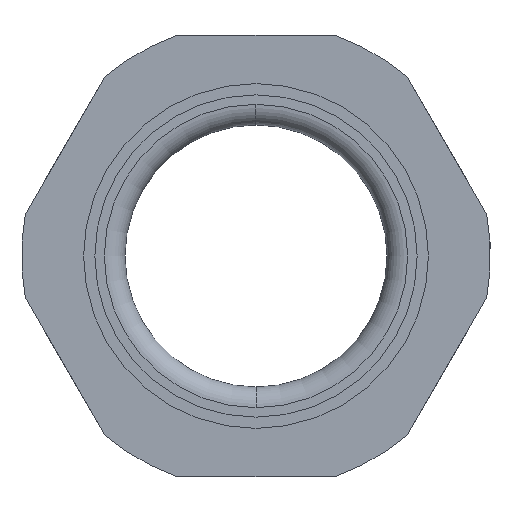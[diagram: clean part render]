
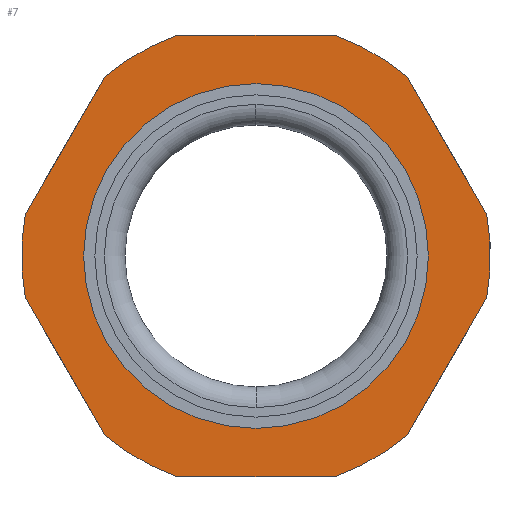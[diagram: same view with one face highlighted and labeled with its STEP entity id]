
A CAD part, front view. The second image highlights one B-rep face of the part: STEP entity #7.
In plain terms, the highlighted planar face has unit normal (0, -1, 0).
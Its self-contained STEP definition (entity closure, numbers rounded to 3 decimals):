
#7 = ADVANCED_FACE ( 'NONE', ( #336, #1300 ), #763, .T. ) ;
#13 = ORIENTED_EDGE ( 'NONE', *, *, #58, .F. ) ;
#30 = DIRECTION ( 'NONE',  ( 0., 1., 0. ) ) ;
#40 = CARTESIAN_POINT ( 'NONE',  ( -10.984, 14., 12.975 ) ) ;
#42 = DIRECTION ( 'NONE',  ( 0., 1., 0. ) ) ;
#44 = DIRECTION ( 'NONE',  ( 0., 0., 1. ) ) ;
#53 = VERTEX_POINT ( 'NONE', #440 ) ;
#58 = EDGE_CURVE ( 'NONE', #1225, #1099, #949, .T. ) ;
#62 = CARTESIAN_POINT ( 'NONE',  ( -10.984, 14., -12.975 ) ) ;
#70 = ORIENTED_EDGE ( 'NONE', *, *, #1513, .T. ) ;
#73 = VECTOR ( 'NONE', #378, 1000. ) ;
#110 = EDGE_LOOP ( 'NONE', ( #418, #358 ) ) ;
#124 = EDGE_CURVE ( 'NONE', #481, #1286, #267, .T. ) ;
#125 = CARTESIAN_POINT ( 'NONE',  ( -5.745, 14., -16. ) ) ;
#132 = DIRECTION ( 'NONE',  ( 0., 0., 1. ) ) ;
#141 = CARTESIAN_POINT ( 'NONE',  ( 0., 14., 0. ) ) ;
#156 = DIRECTION ( 'NONE',  ( 0., 1., 0. ) ) ;
#165 = CIRCLE ( 'NONE', #919, 17. ) ;
#178 = DIRECTION ( 'NONE',  ( 0., 0., 1. ) ) ;
#192 = VERTEX_POINT ( 'NONE', #125 ) ;
#193 = CARTESIAN_POINT ( 'NONE',  ( 0., 14., 0. ) ) ;
#194 = AXIS2_PLACEMENT_3D ( 'NONE', #141, #42, #508 ) ;
#195 = DIRECTION ( 'NONE',  ( 0., 0., 1. ) ) ;
#201 = ORIENTED_EDGE ( 'NONE', *, *, #1332, .F. ) ;
#205 = CIRCLE ( 'NONE', #680, 17. ) ;
#232 = VECTOR ( 'NONE', #1469, 1000. ) ;
#252 = CARTESIAN_POINT ( 'NONE',  ( 10.984, 14., 12.975 ) ) ;
#258 = DIRECTION ( 'NONE',  ( 0., 1., 0. ) ) ;
#267 = LINE ( 'NONE', #752, #232 ) ;
#288 = CARTESIAN_POINT ( 'NONE',  ( 0., 14., 0. ) ) ;
#290 = CARTESIAN_POINT ( 'NONE',  ( 0., 14., 0. ) ) ;
#306 = CARTESIAN_POINT ( 'NONE',  ( 5.745, 14., -16. ) ) ;
#307 = CARTESIAN_POINT ( 'NONE',  ( 0., 14., 0. ) ) ;
#325 = AXIS2_PLACEMENT_3D ( 'NONE', #290, #1251, #1333 ) ;
#336 = FACE_BOUND ( 'NONE', #110, .T. ) ;
#344 = LINE ( 'NONE', #762, #73 ) ;
#358 = ORIENTED_EDGE ( 'NONE', *, *, #819, .T. ) ;
#362 = CARTESIAN_POINT ( 'NONE',  ( -16.729, 14., 3.025 ) ) ;
#366 = CARTESIAN_POINT ( 'NONE',  ( 5.745, 14., 16. ) ) ;
#378 = DIRECTION ( 'NONE',  ( -0.5, 0., -0.866 ) ) ;
#417 = DIRECTION ( 'NONE',  ( 1., 0., 0. ) ) ;
#418 = ORIENTED_EDGE ( 'NONE', *, *, #1123, .T. ) ;
#440 = CARTESIAN_POINT ( 'NONE',  ( 16.729, 14., 3.025 ) ) ;
#452 = CIRCLE ( 'NONE', #325, 17. ) ;
#481 = VERTEX_POINT ( 'NONE', #1501 ) ;
#488 = VERTEX_POINT ( 'NONE', #581 ) ;
#497 = AXIS2_PLACEMENT_3D ( 'NONE', #307, #1359, #195 ) ;
#508 = DIRECTION ( 'NONE',  ( 0., 0., 1. ) ) ;
#531 = CARTESIAN_POINT ( 'NONE',  ( -12.5, 14., 0. ) ) ;
#535 = CARTESIAN_POINT ( 'NONE',  ( 10.731, 14., 13.413 ) ) ;
#540 = CARTESIAN_POINT ( 'NONE',  ( 0., 14., 0. ) ) ;
#549 = VERTEX_POINT ( 'NONE', #306 ) ;
#563 = EDGE_CURVE ( 'NONE', #53, #488, #750, .T. ) ;
#573 = DIRECTION ( 'NONE',  ( 0., -1., 0. ) ) ;
#581 = CARTESIAN_POINT ( 'NONE',  ( 16.729, 14., -3.025 ) ) ;
#601 = LINE ( 'NONE', #871, #1188 ) ;
#660 = LINE ( 'NONE', #1527, #908 ) ;
#680 = AXIS2_PLACEMENT_3D ( 'NONE', #1001, #740, #44 ) ;
#706 = VERTEX_POINT ( 'NONE', #1137 ) ;
#729 = EDGE_CURVE ( 'NONE', #53, #1099, #1484, .T. ) ;
#740 = DIRECTION ( 'NONE',  ( 0., 1., 0. ) ) ;
#750 = CIRCLE ( 'NONE', #1103, 17. ) ;
#752 = CARTESIAN_POINT ( 'NONE',  ( -16.981, 14., -2.587 ) ) ;
#762 = CARTESIAN_POINT ( 'NONE',  ( -16.981, 14., 2.587 ) ) ;
#763 = PLANE ( 'NONE',  #928 ) ;
#771 = LINE ( 'NONE', #1005, #1369 ) ;
#774 = CARTESIAN_POINT ( 'NONE',  ( -5.745, 14., 16. ) ) ;
#783 = EDGE_CURVE ( 'NONE', #481, #1153, #452, .T. ) ;
#804 = EDGE_LOOP ( 'NONE', ( #201, #809, #1185, #70, #924, #1277, #13, #1143, #1145, #1187, #1205, #1328 ) ) ;
#809 = ORIENTED_EDGE ( 'NONE', *, *, #923, .T. ) ;
#819 = EDGE_CURVE ( 'NONE', #706, #1034, #1409, .T. ) ;
#871 = CARTESIAN_POINT ( 'NONE',  ( -12.5, 14., 16. ) ) ;
#877 = DIRECTION ( 'NONE',  ( -1., 0., 0. ) ) ;
#908 = VECTOR ( 'NONE', #417, 1000. ) ;
#919 = AXIS2_PLACEMENT_3D ( 'NONE', #540, #30, #1102 ) ;
#923 = EDGE_CURVE ( 'NONE', #192, #549, #660, .T. ) ;
#924 = ORIENTED_EDGE ( 'NONE', *, *, #563, .F. ) ;
#928 = AXIS2_PLACEMENT_3D ( 'NONE', #531, #573, #938 ) ;
#938 = DIRECTION ( 'NONE',  ( 0., 0., -1. ) ) ;
#949 = CIRCLE ( 'NONE', #1158, 17. ) ;
#950 = DIRECTION ( 'NONE',  ( 0., 1., 0. ) ) ;
#955 = CIRCLE ( 'NONE', #1315, 17. ) ;
#1001 = CARTESIAN_POINT ( 'NONE',  ( 0., 14., 0. ) ) ;
#1005 = CARTESIAN_POINT ( 'NONE',  ( 10.731, 14., -13.413 ) ) ;
#1018 = DIRECTION ( 'NONE',  ( 0.5, 0., 0.866 ) ) ;
#1034 = VERTEX_POINT ( 'NONE', #1349 ) ;
#1085 = EDGE_CURVE ( 'NONE', #1337, #1153, #344, .T. ) ;
#1093 = CARTESIAN_POINT ( 'NONE',  ( 0., 14., 0. ) ) ;
#1099 = VERTEX_POINT ( 'NONE', #252 ) ;
#1102 = DIRECTION ( 'NONE',  ( 0., 0., 1. ) ) ;
#1103 = AXIS2_PLACEMENT_3D ( 'NONE', #193, #950, #178 ) ;
#1112 = DIRECTION ( 'NONE',  ( 0., 0., 1. ) ) ;
#1120 = VECTOR ( 'NONE', #1238, 1000. ) ;
#1123 = EDGE_CURVE ( 'NONE', #1034, #706, #1271, .T. ) ;
#1137 = CARTESIAN_POINT ( 'NONE',  ( 0., 14., -12.5 ) ) ;
#1143 = ORIENTED_EDGE ( 'NONE', *, *, #1171, .T. ) ;
#1145 = ORIENTED_EDGE ( 'NONE', *, *, #1195, .F. ) ;
#1153 = VERTEX_POINT ( 'NONE', #362 ) ;
#1158 = AXIS2_PLACEMENT_3D ( 'NONE', #1093, #258, #132 ) ;
#1166 = VERTEX_POINT ( 'NONE', #1464 ) ;
#1171 = EDGE_CURVE ( 'NONE', #1225, #1437, #601, .T. ) ;
#1185 = ORIENTED_EDGE ( 'NONE', *, *, #1250, .F. ) ;
#1187 = ORIENTED_EDGE ( 'NONE', *, *, #1085, .T. ) ;
#1188 = VECTOR ( 'NONE', #877, 1000. ) ;
#1195 = EDGE_CURVE ( 'NONE', #1337, #1437, #205, .T. ) ;
#1205 = ORIENTED_EDGE ( 'NONE', *, *, #783, .F. ) ;
#1225 = VERTEX_POINT ( 'NONE', #366 ) ;
#1238 = DIRECTION ( 'NONE',  ( -0.5, 0., 0.866 ) ) ;
#1250 = EDGE_CURVE ( 'NONE', #1166, #549, #165, .T. ) ;
#1251 = DIRECTION ( 'NONE',  ( 0., 1., 0. ) ) ;
#1271 = CIRCLE ( 'NONE', #194, 12.5 ) ;
#1277 = ORIENTED_EDGE ( 'NONE', *, *, #729, .T. ) ;
#1286 = VERTEX_POINT ( 'NONE', #62 ) ;
#1300 = FACE_OUTER_BOUND ( 'NONE', #804, .T. ) ;
#1315 = AXIS2_PLACEMENT_3D ( 'NONE', #288, #156, #1112 ) ;
#1328 = ORIENTED_EDGE ( 'NONE', *, *, #124, .T. ) ;
#1332 = EDGE_CURVE ( 'NONE', #192, #1286, #955, .T. ) ;
#1333 = DIRECTION ( 'NONE',  ( 0., 0., 1. ) ) ;
#1337 = VERTEX_POINT ( 'NONE', #40 ) ;
#1349 = CARTESIAN_POINT ( 'NONE',  ( 0., 14., 12.5 ) ) ;
#1359 = DIRECTION ( 'NONE',  ( 0., 1., 0. ) ) ;
#1369 = VECTOR ( 'NONE', #1018, 1000. ) ;
#1409 = CIRCLE ( 'NONE', #497, 12.5 ) ;
#1437 = VERTEX_POINT ( 'NONE', #774 ) ;
#1464 = CARTESIAN_POINT ( 'NONE',  ( 10.984, 14., -12.975 ) ) ;
#1469 = DIRECTION ( 'NONE',  ( 0.5, 0., -0.866 ) ) ;
#1484 = LINE ( 'NONE', #535, #1120 ) ;
#1501 = CARTESIAN_POINT ( 'NONE',  ( -16.729, 14., -3.025 ) ) ;
#1513 = EDGE_CURVE ( 'NONE', #1166, #488, #771, .T. ) ;
#1527 = CARTESIAN_POINT ( 'NONE',  ( -12.5, 14., -16. ) ) ;
